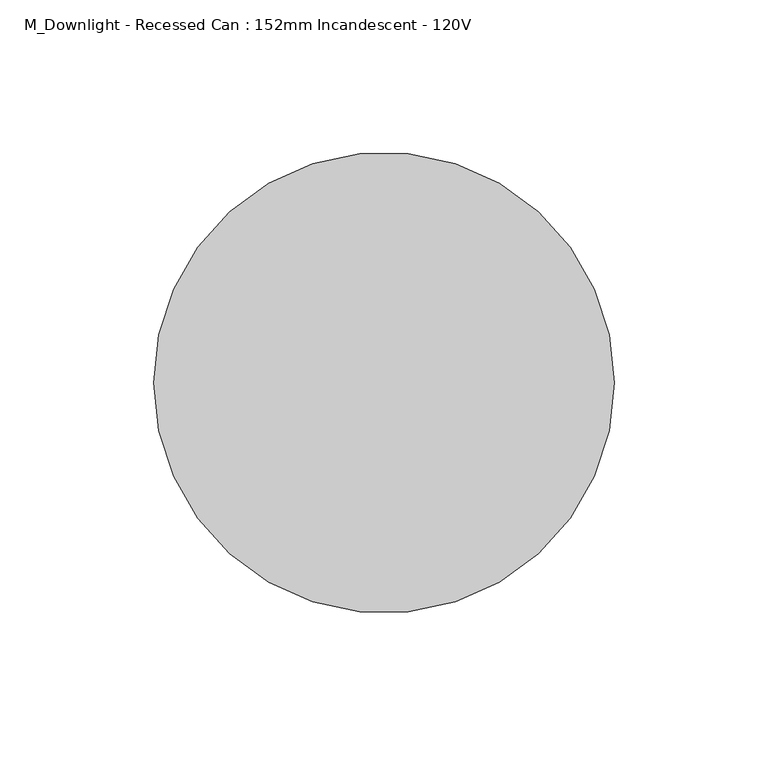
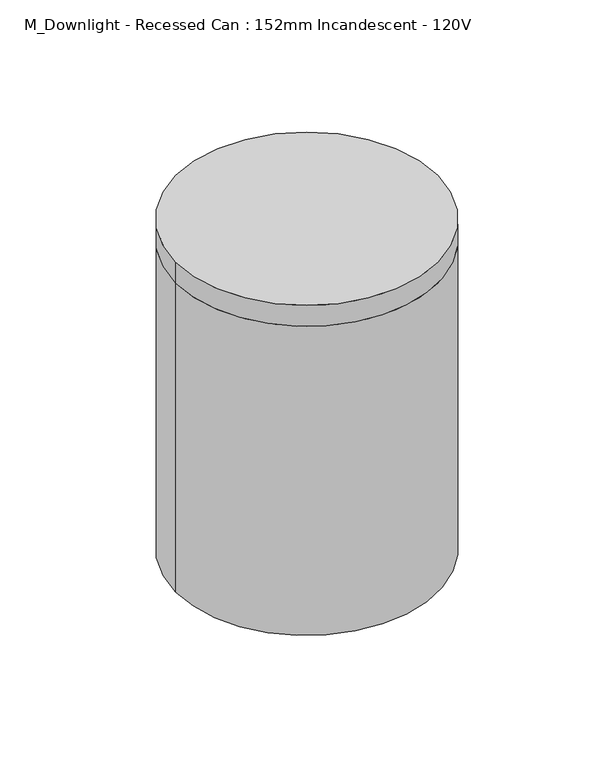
"""IFC4 building model written with IfcOpenShell, lengths in millimetres: light fixture geometry, M_Downlight - Recessed Can : 152mm Incandescent - 120V."""

from ifc_helpers import new_model, si_unit, point, frame, origin, origin_2d, place, context, project, spatial, circle_curve, trimmed, segment, composite_curve, outline, extrude, source, transform, mapped, element, save


def m_downlight_recessed_can_152mm_incandescent_120v_9e946963(model_context):
    return source(origin(), model_context, "Body", "SweptSolid", [
        extrude(outline(composite_curve([segment(trimmed(circle_curve(origin_2d(), 75.0), [point((-75.0, 0.0))], [point((75.0, 0.0))], False, "CARTESIAN"), True, "CONTINUOUS"), segment(trimmed(circle_curve(origin_2d(), 75.0), [point((75.0, 0.0))], [point((-75.0, 0.0))], False, "CARTESIAN"), True, "CONTINUOUS")], self_intersect=False)), frame((0.0, 0.0, 2625.7), z_axis=(0.0, 0.0, 1.0), x_axis=(1.0, 0.0, 0.0)), (0.0, 0.0, 1.0), 12.7),
        extrude(outline(composite_curve([segment(trimmed(circle_curve(origin_2d(), 75.0), [point((-75.0, 0.0))], [point((75.0, 0.0))], False, "CARTESIAN"), True, "CONTINUOUS"), segment(trimmed(circle_curve(origin_2d(), 75.0), [point((75.0, 0.0))], [point((-75.0, 0.0))], False, "CARTESIAN"), True, "CONTINUOUS")], self_intersect=False), holes=[composite_curve([segment(trimmed(circle_curve(origin_2d(), 62.3), [point((-62.3, 0.0))], [point((62.3, 0.0))], True, "CARTESIAN"), True, "CONTINUOUS"), segment(trimmed(circle_curve(origin_2d(), 62.3), [point((62.3, 0.0))], [point((-62.3, 0.0))], True, "CARTESIAN"), True, "CONTINUOUS")], self_intersect=False)]), frame((0.0, 0.0, 2438.4), z_axis=(0.0, 0.0, 1.0), x_axis=(1.0, 0.0, 0.0)), (0.0, 0.0, 1.0), 187.3),
    ])


if __name__ == "__main__":
    model = new_model("IFC4")
    model_context = context("Model", 3, world=origin())
    ifc_project = project(units=[si_unit("LENGTHUNIT", "METRE", prefix="MILLI")], contexts=[model_context])
    site = spatial("IfcSite", under=ifc_project)
    building = spatial("IfcBuilding", under=site)
    placement = place(None, origin())
    m_downlight_recessed_can_152mm_incandescent_120v_shape = m_downlight_recessed_can_152mm_incandescent_120v_9e946963(model_context)
    element("IfcLightFixture", 1, ObjectType="M_Downlight - Recessed Can : 152mm Incandescent - 120V", at=placement, inside=building, context=model_context, shape_type="MappedRepresentation", body=[
        mapped(m_downlight_recessed_can_152mm_incandescent_120v_shape, transform((0.0, 0.0, 0.0), x_axis=(1.0, 0.0, 0.0), y_axis=(0.0, 1.0, 0.0), z_axis=(0.0, 0.0, 1.0))),
    ])
    save(model, "model.ifc")
